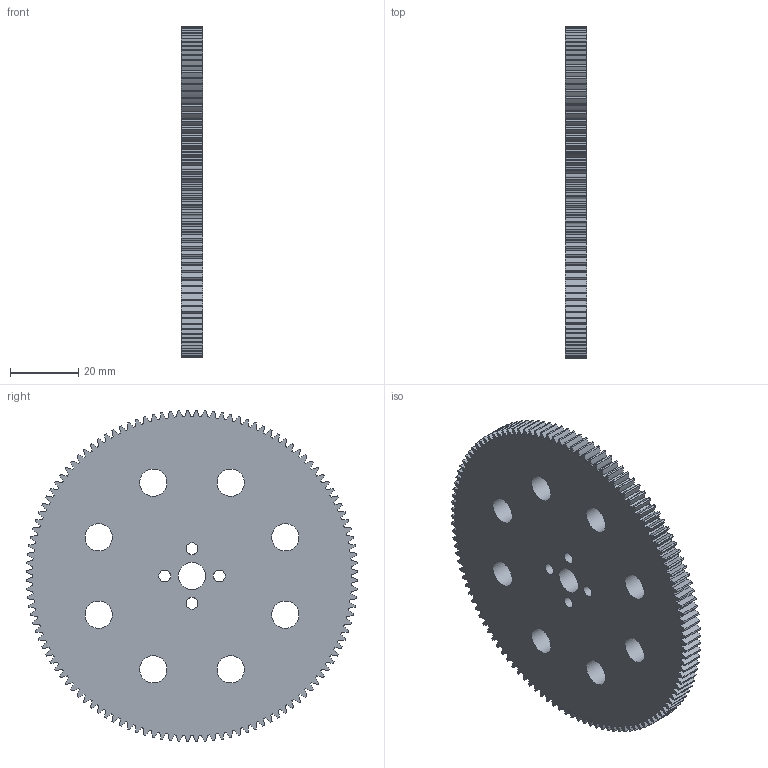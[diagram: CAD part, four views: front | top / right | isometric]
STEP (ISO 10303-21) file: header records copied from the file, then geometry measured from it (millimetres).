
FILE_DESCRIPTION(/* description */ (''),/* implementation_level */ '2;1');
FILE_NAME(/* name */ 'D:\FIRST\FTC KOP 2017\FTC 2017 KOP\Tetrix STEP\Tetrix_39085.ipt.step',/* time_stamp */ '2017-01-03T09:06:18-08:00',/* author */ ('Autodesk Inc.'),/* organization */ ('Autodesk Inc.'),/* preprocessor_version */ 'ST-DEVELOPER v16.5',/* originating_system */ 'Autodesk Inventor 2017',/* authorisation */ '');
FILE_SCHEMA (('AUTOMOTIVE_DESIGN { 1 0 10303 214 3 1 1 }'));
Length unit declared in the file: millimetre
Products named in the file (1): 39085
Bounding box: 6.2 x 97.58 x 97.58 mm (x, y, z)
Volume: 41597.4 mm3; surface area: 18835.9 mm2
Topology: 1 solids, 1 shells, 495 faces, 1480 edges, 987 vertices
Faces by surface type: cylinder 493, plane 2
Full cylindrical faces by diameter (mm): 3.5 x4, 8 x9
Entity records: 17296 total; most frequent: DIRECTION 3444, CARTESIAN_POINT 2948, ORIENTED_EDGE 2932, AXIS2_PLACEMENT_3D 1482, EDGE_CURVE 1466, CIRCLE 986, VERTEX_POINT 986, EDGE_LOOP 534
